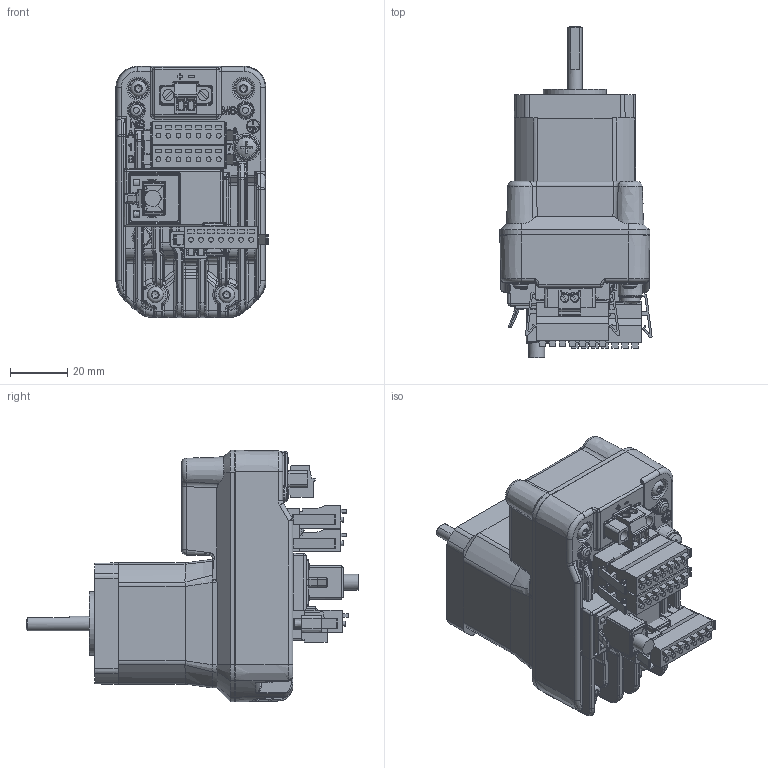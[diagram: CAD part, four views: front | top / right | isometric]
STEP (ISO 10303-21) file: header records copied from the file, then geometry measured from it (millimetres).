
FILE_DESCRIPTION(('LMDXE42-Double-Stack Web Model'),'1');
FILE_NAME('C:/temp/LMDXE42-Double-Stack Web Model.stp', '2013-09-24T14:31:42',('P. Bordua, 09/24/13'), ('Schneider Electric Motion USA'), 'KCM Version 1.1.794.0', 'Kubotek KeyCreator', 'Kubotek KeyCreator 2014 V12.0');
FILE_SCHEMA(('AUTOMOTIVE_DESIGN'));
Length unit declared in the file: inch
Products named in the file (6): Dinkle 0221-24-B3085308P, Pin-5 Keyed, Plug, 3.50mm Pitch, 7 x 1 Pos., Locking Tabs[Part1]; Dinkle 0221-24-B3085308P, Pin-2 Keyed, Plug, 3.50mm Pitch, 7 x 1 Pos., Locking Tabs[Part1]; Dinkle EC350VM-B3081302P, Plug, 3.50 mm, 2 x 1 Pos[Part1]; RJ45 Mate[Part1]
Bounding box: 53.03 x 115.63 x 87.6 mm (x, y, z)
Volume: 212929.6 mm3; surface area: 49946.6 mm2
Topology: 9 solids, 13 shells, 4293 faces, 10953 edges, 6940 vertices
Faces by surface type: plane 2401, cylinder 1007, bspline 607, cone 111, torus 100, sphere 67
Full cylindrical faces by diameter (mm): 1.6 x31, 1.611 x4, 1.686 x28, 2.449 x4, 2.5 x2, 3.505 x1, 3.792 x4, 5 x1, 5.004 x2, 5.588 x2, 5.6 x4, 6.858 x1, 7.62 x1, 9.525 x1, 21.996 x1
Entity records: 143980 total; most frequent: CARTESIAN_POINT 58845, ORIENTED_EDGE 16442, DIRECTION 14696, EDGE_CURVE 8221, VERTEX_POINT 5180, AXIS2_PLACEMENT_3D 4921, VECTOR 4854, LINE 4854
